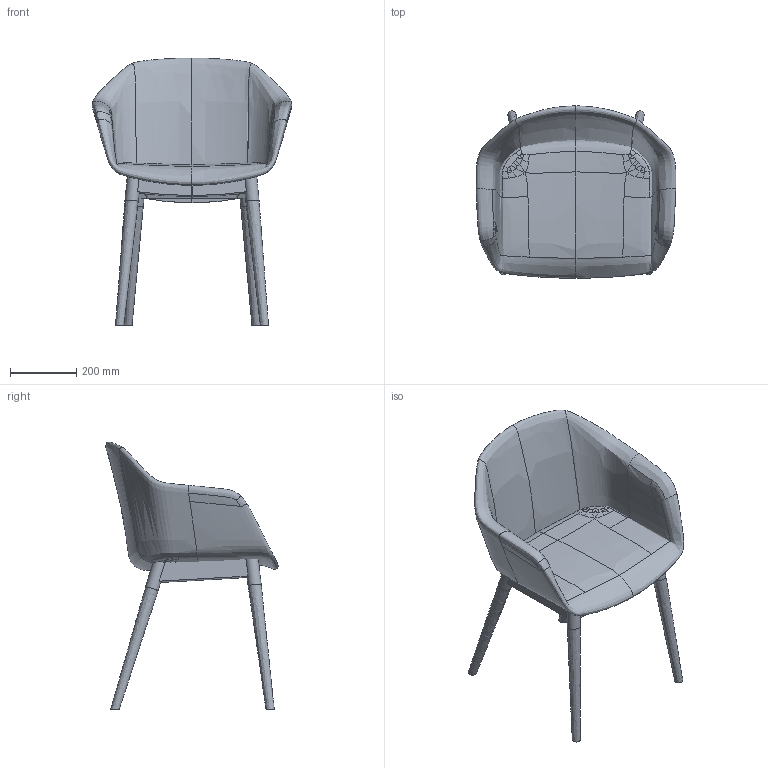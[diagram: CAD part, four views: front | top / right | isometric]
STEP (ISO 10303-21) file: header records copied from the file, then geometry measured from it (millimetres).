
FILE_DESCRIPTION(/* description */ (''),/* implementation_level */ '2;1');
FILE_NAME(/* name */ 'RIVA RI-02,D',/* time_stamp */ '2024-07-10T23:27:22+02:00',/* author */ (''),/* organization */ (''),/* preprocessor_version */ 'ST-DEVELOPER v16.5',/* originating_system */ 'Rhino 7.36',/* authorisation */ '');
FILE_SCHEMA (('CONFIG_CONTROL_DESIGN'));
Length unit declared in the file: millimetre
Products named in the file (1): Document
Bounding box: 604.45 x 521.46 x 810.68 mm (x, y, z)
Volume: 2925168.6 mm3; surface area: 1503377 mm2
Topology: 6 solids, 12 shells, 178 faces, 448 edges, 287 vertices
Faces by surface type: bspline 140, plane 34, cylinder 4
Full cylindrical faces by diameter (mm): 40 x4
Entity records: 23793 total; most frequent: CARTESIAN_POINT 20952, ORIENTED_EDGE 826, EDGE_CURVE 445, B_SPLINE_CURVE_WITH_KNOTS 390, VERTEX_POINT 281, ADVANCED_FACE 178, FACE_OUTER_BOUND 178, EDGE_LOOP 178
